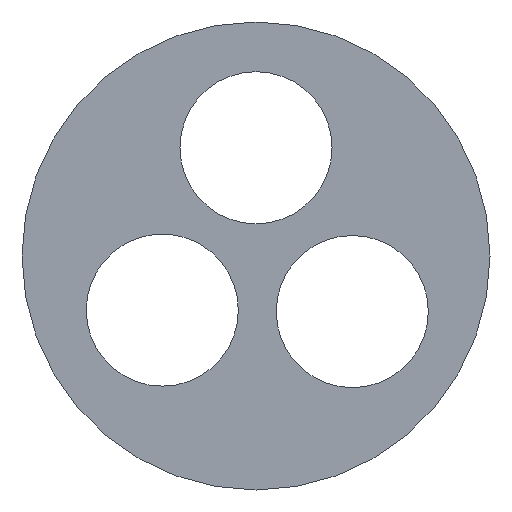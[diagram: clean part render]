
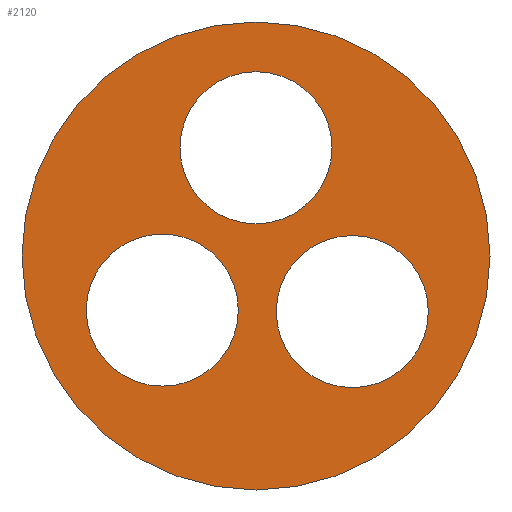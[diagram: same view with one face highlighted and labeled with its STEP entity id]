
A CAD part, left-side view. The second image highlights one B-rep face of the part: STEP entity #2120.
In plain terms, the highlighted planar face has unit normal (-1, 0, 0).
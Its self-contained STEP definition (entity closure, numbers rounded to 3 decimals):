
#1340=CARTESIAN_POINT('',(70.148,185.597,
0.));
#1350=VERTEX_POINT('',#1340);
#1430=CARTESIAN_POINT('',(70.148,201.597,0.));
#1440=VERTEX_POINT('',#1430);
#1470=CARTESIAN_POINT('',(70.148,193.597,0.));
#1480=DIRECTION('',(1.,0.,0.));
#1490=DIRECTION('',(0.,1.,0.));
#1500=AXIS2_PLACEMENT_3D('',#1470,#1480,#1490);
#1510=CIRCLE('',#1500,8.);
#1520=EDGE_CURVE('',#1350,#1440,#1510,.T.);
#1570=CARTESIAN_POINT('',(70.148,197.597,0.));
#1580=DIRECTION('',(1.,0.,0.));
#1590=DIRECTION('',(0.,-1.,0.));
#1600=AXIS2_PLACEMENT_3D('',#1570,#1580,#1590);
#1610=PLANE('',#1600);
#1620=EDGE_CURVE('',#1440,#1350,#1510,.T.);
#1630=ORIENTED_EDGE('',*,*,#1620,.F.);
#1640=ORIENTED_EDGE('',*,*,#1520,.F.);
#1650=EDGE_LOOP('',(#1640,#1630));
#1660=FACE_OUTER_BOUND('',#1650,.T.);
#1670=CARTESIAN_POINT('',(70.148,193.597,
3.7));
#1680=DIRECTION('',(1.,0.,0.));
#1690=DIRECTION('',(0.,1.,0.));
#1700=AXIS2_PLACEMENT_3D('',#1670,#1680,#1690);
#1710=CIRCLE('',#1700,2.6);
#1720=CARTESIAN_POINT('',(70.148,196.197,
3.7));
#1730=VERTEX_POINT('',#1720);
#1740=CARTESIAN_POINT('',(70.148,190.997,
3.7));
#1750=VERTEX_POINT('',#1740);
#1760=EDGE_CURVE('',#1730,#1750,#1710,.T.);
#1770=ORIENTED_EDGE('',*,*,#1760,.T.);
#1780=EDGE_CURVE('',#1750,#1730,#1710,.T.);
#1790=ORIENTED_EDGE('',*,*,#1780,.T.);
#1800=EDGE_LOOP('',(#1790,#1770));
#1810=FACE_BOUND('',#1800,.T.);
#1820=CARTESIAN_POINT('',(70.148,196.801,
-1.85));
#1830=DIRECTION('',(1.,0.,0.));
#1840=DIRECTION('',(0.,1.,0.));
#1850=AXIS2_PLACEMENT_3D('',#1820,#1830,#1840);
#1860=CIRCLE('',#1850,2.6);
#1870=CARTESIAN_POINT('',(70.148,199.401,
-1.85));
#1880=VERTEX_POINT('',#1870);
#1890=CARTESIAN_POINT('',(70.148,194.201,
-1.85));
#1900=VERTEX_POINT('',#1890);
#1910=EDGE_CURVE('',#1880,#1900,#1860,.T.);
#1920=ORIENTED_EDGE('',*,*,#1910,.T.);
#1930=EDGE_CURVE('',#1900,#1880,#1860,.T.);
#1940=ORIENTED_EDGE('',*,*,#1930,.T.);
#1950=EDGE_LOOP('',(#1940,#1920));
#1960=FACE_BOUND('',#1950,.T.);
#1970=CARTESIAN_POINT('',(70.148,190.306,
-1.9));
#1980=DIRECTION('',(1.,0.,0.));
#1990=DIRECTION('',(0.,1.,0.));
#2000=AXIS2_PLACEMENT_3D('',#1970,#1980,#1990);
#2010=CIRCLE('',#2000,2.6);
#2020=CARTESIAN_POINT('',(70.148,192.906,
-1.9));
#2030=VERTEX_POINT('',#2020);
#2040=CARTESIAN_POINT('',(70.148,187.706,
-1.9));
#2050=VERTEX_POINT('',#2040);
#2060=EDGE_CURVE('',#2030,#2050,#2010,.T.);
#2070=ORIENTED_EDGE('',*,*,#2060,.T.);
#2080=EDGE_CURVE('',#2050,#2030,#2010,.T.);
#2090=ORIENTED_EDGE('',*,*,#2080,.T.);
#2100=EDGE_LOOP('',(#2090,#2070));
#2110=FACE_BOUND('',#2100,.T.);
#2120=ADVANCED_FACE('',(#1660,#1810,#1960,#2110),#1610,.F.);
